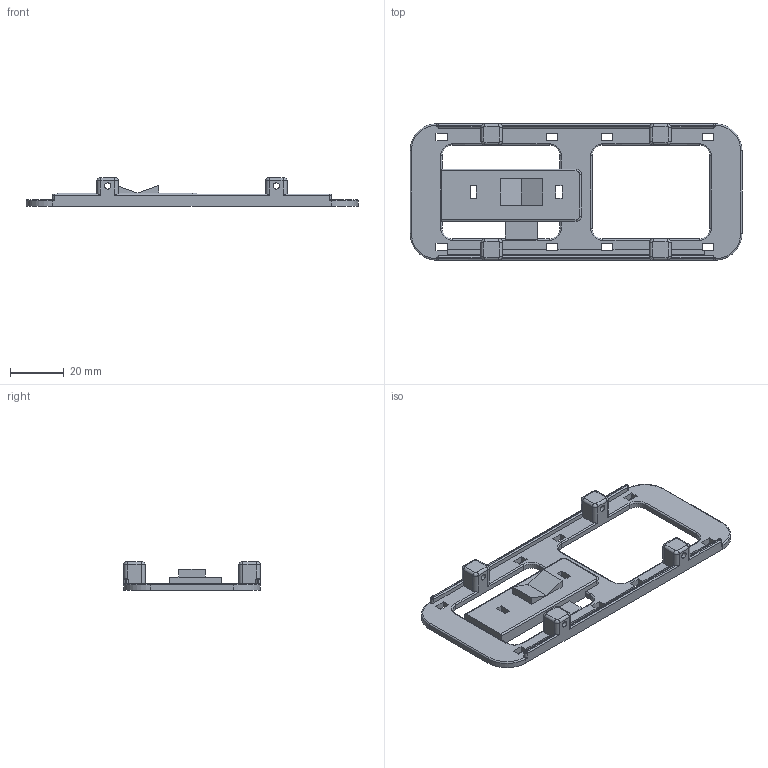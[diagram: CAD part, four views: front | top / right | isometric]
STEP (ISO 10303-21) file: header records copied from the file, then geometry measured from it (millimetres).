
FILE_DESCRIPTION(('Open CASCADE Model'),'2;1');
FILE_NAME('Open CASCADE Shape Model','2026-11-09T20:50:42',('Author'),( 'Open CASCADE'),'Open CASCADE STEP processor 7.9','Open CASCADE 7.9' ,'Unknown');
FILE_SCHEMA(('AUTOMOTIVE_DESIGN { 1 0 10303 214 1 1 1 1 }'));
Length unit declared in the file: millimetre
Products named in the file (1): Open CASCADE STEP translator 7.9 1
Bounding box: 124 x 51 x 10.5 mm (x, y, z)
Volume: 14443.8 mm3; surface area: 12378 mm2
Topology: 1 solids, 1 shells, 248 faces, 688 edges, 432 vertices
Faces by surface type: plane 114, cylinder 96, revolution 24, torus 14
Full cylindrical faces by diameter (mm): 2.3 x4
Entity records: 19615 total; most frequent: CARTESIAN_POINT 6603, DIRECTION 2199, ORIENTED_EDGE 1376, PCURVE 1376, DEFINITIONAL_REPRESENTATION 1376, LINE 1234, VECTOR 1234, EDGE_CURVE 688
